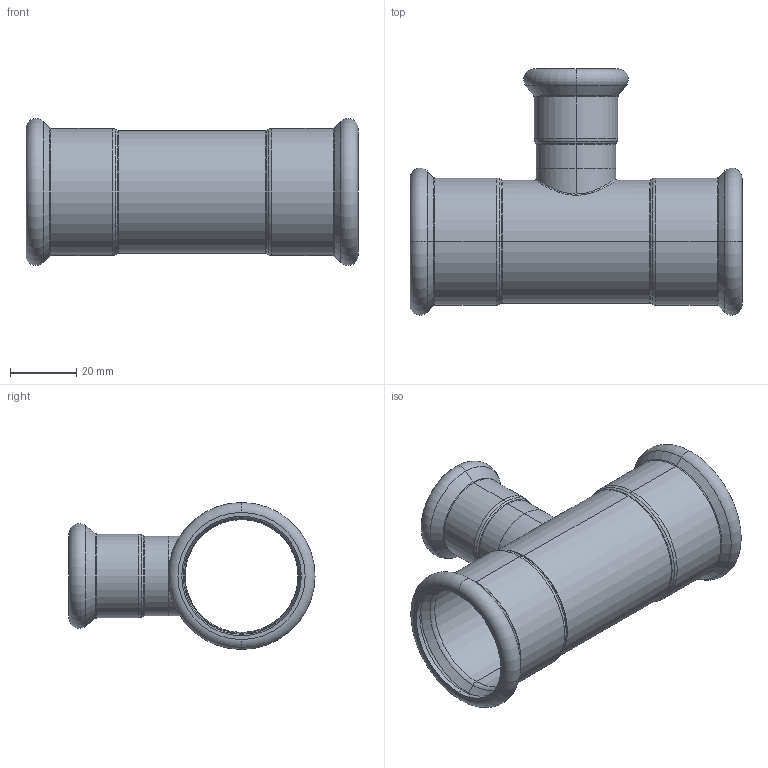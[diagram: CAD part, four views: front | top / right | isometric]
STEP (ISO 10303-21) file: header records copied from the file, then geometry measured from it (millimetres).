
FILE_DESCRIPTION (( 'STEP AP203' ), '1' );
FILE_NAME ('GDA5199.STEP', '2019-01-12T05:52:53', ( '' ), ( '' ), 'SwSTEP 2.0', 'SolidWorks 2015', '' );
FILE_SCHEMA (( 'CONFIG_CONTROL_DESIGN' ));
Length unit declared in the file: millimetre
Products named in the file (3): GDA5199; T(R)-¢ñ-35¡Á22''; T-ｉ-01-22
Assembly tree (2 placements, depth 2):
  GDA5199
    T(R)-¢ñ-35¡Á22''
    T-ｉ-01-22
Bounding box: 100 x 74.15 x 44.29 mm (x, y, z)
Volume: 22199.9 mm3; surface area: 30269 mm2
Topology: 2 solids, 2 shells, 114 faces, 234 edges, 128 vertices
Faces by surface type: torus 48, cylinder 30, cone 24, plane 8, bspline 4
Entity records: 4322 total; most frequent: CARTESIAN_POINT 1532, DIRECTION 620, ORIENTED_EDGE 468, AXIS2_PLACEMENT_3D 283, EDGE_CURVE 234, CIRCLE 168, VERTEX_POINT 128, EDGE_LOOP 124
